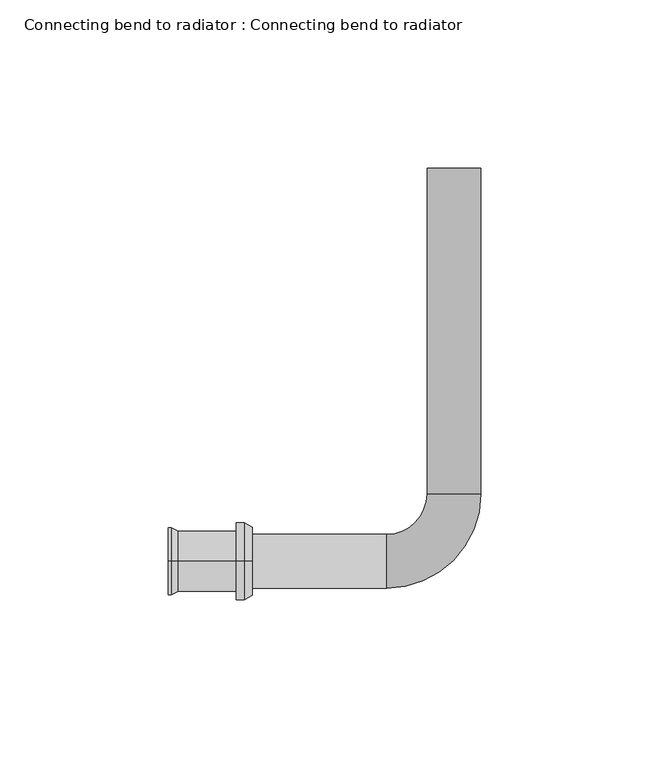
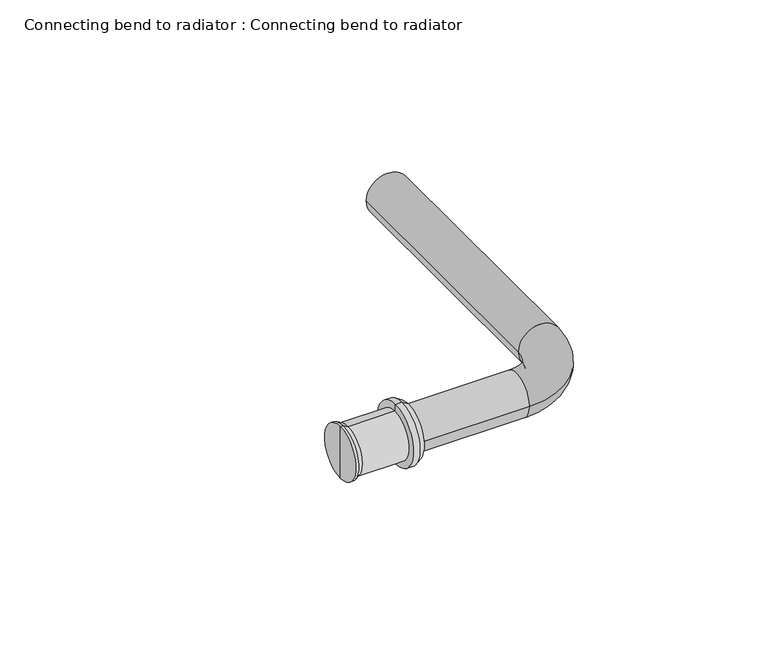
"""IFC4 building model written with IfcOpenShell, lengths in millimetres: pipe fitting geometry, Connecting bend to radiator : Connecting bend to radiator."""

from ifc_helpers import new_model, si_unit, point, frame, origin, place, context, project, spatial, polyline, circle_curve, ellipse_curve, trimmed, source, transform, mapped, element, save
from ifc_brep_helpers import plane_surface, cylinder_surface, revolved_surface, advanced_brep


def connecting_bend_to_radiator_connecting_bend_to_radiator_efed110a(model_context):
    return source(origin(), model_context, "Body", "AdvancedBrep", [
        advanced_brep(
        [(-60.0, 0.0, 0.0), (-60.0, 0.0, 10.1432269), (-60.0, 0.0, -10.1432269), (-64.7, 0.0, -11.5), (-64.7, 0.0, 11.5), (-64.7, 0.0, 0.0), (-62.35, 0.0, -11.5), (-62.35, 0.0, 11.5)],
        [
            (0, 1),
            (1, 2, circle_curve(frame((-60.0, 0.0, 0.0), z_axis=(1.0, 0.0, 0.0), x_axis=(0.0, 0.0, 1.0)), 10.1432269)),
            (2, 0),
            (2, 1, circle_curve(frame((-60.0, 0.0, 0.0), z_axis=(1.0, 0.0, 0.0), x_axis=(0.0, 0.0, 1.0)), 10.1432269)),
            (3, 4, circle_curve(frame((-64.7, 0.0, 0.0), z_axis=(-1.0, 0.0, 0.0), x_axis=(0.0, 0.0, 1.0)), 11.5)),
            (4, 5),
            (5, 3),
            (4, 3, circle_curve(frame((-64.7, 0.0, 0.0), z_axis=(-1.0, 0.0, 0.0), x_axis=(0.0, 0.0, 1.0)), 11.5)),
            (6, 7, circle_curve(frame((-62.35, 0.0, 0.0), z_axis=(-1.0, 0.0, 0.0), x_axis=(0.0, 0.0, 1.0)), 11.5)),
            (7, 4),
            (3, 6),
            (7, 6, circle_curve(frame((-62.35, 0.0, 0.0), z_axis=(-1.0, 0.0, 0.0), x_axis=(0.0, 0.0, 1.0)), 11.5)),
            (1, 7),
            (6, 2),
        ],
        [
            plane_surface(frame((-60.0, 0.0, 0.0), z_axis=(1.0, 0.0, 0.0), x_axis=(0.0, 0.0, 1.0))),
            plane_surface(frame((-64.7, 0.0, 0.0), z_axis=(-1.0, 0.0, 0.0), x_axis=(0.0, 0.0, 1.0))),
            cylinder_surface(frame((-61.0, 0.0, 0.0), z_axis=(1.0, 0.0, 0.0), x_axis=(0.0, 0.0, 1.0)), 11.5),
            revolved_surface(polyline([(-62.35, 0.0, 11.5), (-60.0, 0.0, 10.1432269)]), (-61.0, 0.0, 0.0), (1.0, 0.0, 0.0)),
        ],
        [
            (0, [[1, 2, 3]]),
            (0, [[-3, 4, -1]]),
            (1, [[5, 6, 7]]),
            (1, [[8, -7, -6]]),
            (2, [[9, 10, -5, 11]]),
            (2, [[12, -11, -8, -10]]),
            (3, [[-2, 13, -9, 14]]),
            (3, [[-4, -14, -12, -13]]),
        ],
    ),
        advanced_brep(
        [(-64.7, 0.0, -9.0), (-64.7, 0.0, 9.0), (-82.0, 0.0, 9.0), (-82.0, 0.0, -9.0), (-85.0, 0.0, -10.0), (-85.0, 0.0, 10.0), (-85.0, 0.0, 0.0), (-64.7, 0.0, 0.0), (-84.0, 0.0, -10.0), (-84.0, 0.0, 10.0)],
        [
            (0, 1, circle_curve(frame((-64.7, 0.0, 0.0), z_axis=(-1.0, 0.0, 0.0), x_axis=(0.0, 0.0, 1.0)), 9.0)),
            (1, 2),
            (2, 3, circle_curve(frame((-82.0, 0.0, 0.0), z_axis=(1.0, 0.0, 0.0), x_axis=(0.0, 0.0, 1.0)), 9.0)),
            (3, 0),
            (1, 0, circle_curve(frame((-64.7, 0.0, 0.0), z_axis=(-1.0, 0.0, 0.0), x_axis=(0.0, 0.0, 1.0)), 9.0)),
            (3, 2, circle_curve(frame((-82.0, 0.0, 0.0), z_axis=(1.0, 0.0, 0.0), x_axis=(0.0, 0.0, 1.0)), 9.0)),
            (4, 5, circle_curve(frame((-85.0, 0.0, 0.0), z_axis=(-1.0, 0.0, 0.0), x_axis=(0.0, 0.0, 1.0)), 10.0)),
            (5, 6),
            (6, 4),
            (5, 4, circle_curve(frame((-85.0, 0.0, 0.0), z_axis=(-1.0, 0.0, 0.0), x_axis=(0.0, 0.0, 1.0)), 10.0)),
            (7, 1),
            (0, 7),
            (8, 9, circle_curve(frame((-84.0, 0.0, 0.0), z_axis=(-1.0, 0.0, 0.0), x_axis=(0.0, 0.0, 1.0)), 10.0)),
            (9, 5),
            (4, 8),
            (9, 8, circle_curve(frame((-84.0, 0.0, 0.0), z_axis=(-1.0, 0.0, 0.0), x_axis=(0.0, 0.0, 1.0)), 10.0)),
            (2, 9),
            (8, 3),
        ],
        [
            cylinder_surface(frame((1850.8038476, 0.0, 0.0), z_axis=(1.0, 0.0, 0.0), x_axis=(0.0, 0.0, 1.0)), 9.0),
            plane_surface(frame((-85.0, 0.0, 0.0), z_axis=(-1.0, 0.0, 0.0), x_axis=(0.0, 0.0, 1.0))),
            plane_surface(frame((-64.7, 0.0, 0.0), z_axis=(1.0, 0.0, 0.0), x_axis=(0.0, 0.0, 1.0))),
            cylinder_surface(frame((1850.8038476, 0.0, 0.0), z_axis=(1.0, 0.0, 0.0), x_axis=(0.0, 0.0, 1.0)), 10.0),
            revolved_surface(polyline([(-84.0, 0.0, 10.0), (-82.0, 0.0, 9.0)]), (1850.8038476, 0.0, 0.0), (1.0, 0.0, 0.0)),
        ],
        [
            (0, [[1, 2, 3, 4]]),
            (0, [[5, -4, 6, -2]]),
            (1, [[7, 8, 9]]),
            (1, [[10, -9, -8]]),
            (2, [[11, -1, 12]]),
            (2, [[-12, -5, -11]]),
            (3, [[13, 14, -7, 15]]),
            (3, [[16, -15, -10, -14]]),
            (4, [[-3, 17, -13, 18]]),
            (4, [[-6, -18, -16, -17]]),
        ],
    ),
        advanced_brep(
        [(-8.0, 116.9034785, 0.0), (8.0, 116.9034785, 0.0), (-8.0, 20.0, 0.0), (8.0, 20.0, 0.0), (-20.0, -8.0, 0.0), (-20.0, 8.0, 0.0), (-61.0, 8.0, 0.0), (-61.0, -8.0, 0.0)],
        [
            (0, 1, circle_curve(frame((0.0, 116.9034785, 0.0), z_axis=(0.0, 1.0, 0.0), x_axis=(1.0, 0.0, 0.0)), 8.0)),
            (1, 0, circle_curve(frame((0.0, 116.9034785, 0.0), z_axis=(0.0, 1.0, 0.0), x_axis=(1.0, 0.0, 0.0)), 8.0)),
            (0, 2),
            (2, 3, circle_curve(frame((0.0, 20.0, 0.0), z_axis=(0.0, 1.0, 0.0), x_axis=(1.0, 0.0, 0.0)), 8.0)),
            (3, 1),
            (3, 2, circle_curve(frame((0.0, 20.0, 0.0), z_axis=(0.0, 1.0, 0.0), x_axis=(1.0, 0.0, 0.0)), 8.0)),
            (4, 3, circle_curve(frame((-20.0, 20.0, 0.0), z_axis=(0.0, 0.0, 1.0), x_axis=(1.0, 0.0, 0.0)), 28.0)),
            (2, 5, circle_curve(frame((-20.0, 20.0, 0.0), z_axis=(0.0, 0.0, -1.0), x_axis=(1.0, 0.0, 0.0)), 12.0)),
            (5, 4, circle_curve(frame((-20.0, 0.0, 0.0), z_axis=(1.0, 0.0, 0.0), x_axis=(0.0, -1.0, 0.0)), 8.0)),
            (4, 5, circle_curve(frame((-20.0, 0.0, 0.0), z_axis=(1.0, 0.0, 0.0), x_axis=(0.0, -1.0, 0.0)), 8.0)),
            (6, 7, circle_curve(frame((-61.0, 0.0, 0.0), z_axis=(-1.0, 0.0, 0.0), x_axis=(0.0, -1.0, 0.0)), 8.0)),
            (7, 6, circle_curve(frame((-61.0, 0.0, 0.0), z_axis=(-1.0, 0.0, 0.0), x_axis=(0.0, -1.0, 0.0)), 8.0)),
            (5, 6),
            (7, 4),
        ],
        [
            plane_surface(frame((0.0, 116.9034785, 0.0), z_axis=(0.0, 1.0, 0.0), x_axis=(0.0, 0.0, 1.0))),
            cylinder_surface(frame((0.0, 116.9034785, 0.0), z_axis=(0.0, 1.0, 0.0), x_axis=(1.0, 0.0, 0.0)), 8.0),
            revolved_surface(trimmed(ellipse_curve(frame((0.0, 20.0, 0.0), z_axis=(0.0, 1.0, 0.0), x_axis=(1.0, 0.0, 0.0)), 8.0, 8.0), [point((-8.0, 20.0, 0.0))], [point((8.0, 20.0, 0.0))], True, "CARTESIAN"), (-20.0, 20.0, 0.0), (0.0, 0.0, -1.0)),
            revolved_surface(trimmed(ellipse_curve(frame((0.0, 20.0, 0.0), z_axis=(0.0, 1.0, 0.0), x_axis=(1.0, 0.0, 0.0)), 8.0, 8.0), [point((8.0, 20.0, 0.0))], [point((-8.0, 20.0, 0.0))], True, "CARTESIAN"), (-20.0, 20.0, 0.0), (0.0, 0.0, -1.0)),
            plane_surface(frame((-61.0, 0.0, 0.0), z_axis=(-1.0, 0.0, 0.0), x_axis=(0.0, 0.0, 1.0))),
            cylinder_surface(frame((-20.0, 0.0, 0.0), z_axis=(1.0, 0.0, 0.0), x_axis=(0.0, -1.0, 0.0)), 8.0),
        ],
        [
            (0, [[1, 2]]),
            (1, [[-1, 3, 4, 5]]),
            (1, [[-2, -5, 6, -3]]),
            (2, [[7, -4, 8, 9]]),
            (3, [[-8, -6, -7, 10]]),
            (4, [[11, 12]]),
            (5, [[-9, 13, -12, 14]]),
            (5, [[-10, -14, -11, -13]]),
        ],
    ),
    ])


if __name__ == "__main__":
    model = new_model("IFC4")
    model_context = context("Model", 3, world=origin())
    ifc_project = project(units=[si_unit("LENGTHUNIT", "METRE", prefix="MILLI")], contexts=[model_context])
    site = spatial("IfcSite", under=ifc_project)
    building = spatial("IfcBuilding", under=site)
    placement = place(None, origin())
    connecting_bend_to_radiator_connecting_bend_to_radiator_shape = connecting_bend_to_radiator_connecting_bend_to_radiator_efed110a(model_context)
    element("IfcPipeFitting", 1, ObjectType="Connecting bend to radiator : Connecting bend to radiator", at=placement, inside=building, context=model_context, shape_type="MappedRepresentation", body=[
        mapped(connecting_bend_to_radiator_connecting_bend_to_radiator_shape, transform((0.0, 0.0, 0.0), x_axis=(1.0, 0.0, 0.0), y_axis=(0.0, 1.0, 0.0), z_axis=(0.0, 0.0, 1.0))),
    ])
    save(model, "model.ifc")
